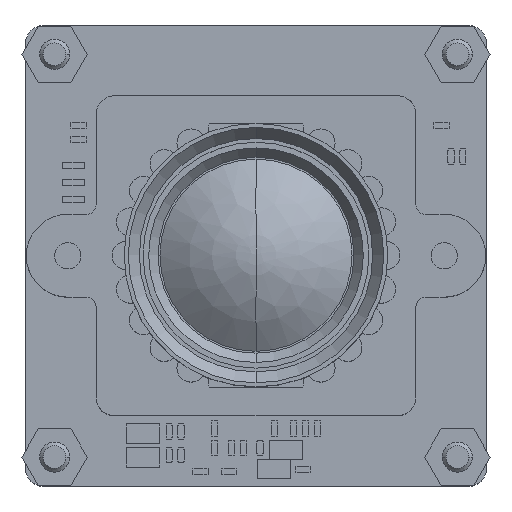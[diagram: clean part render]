
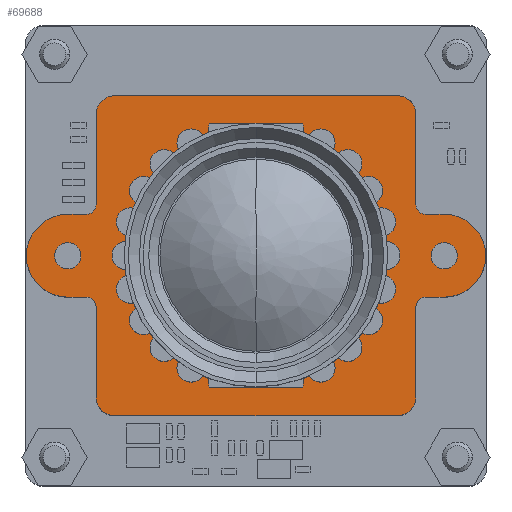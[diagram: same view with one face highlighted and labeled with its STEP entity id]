
A CAD part, top view. The second image highlights one B-rep face of the part: STEP entity #69688.
In plain terms, the highlighted planar face has unit normal (0, 0, 1) as drawn and (0, 0, -1) by its records, which use the part's own axes.
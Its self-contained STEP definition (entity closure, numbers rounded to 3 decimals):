
#68695=CARTESIAN_POINT('',(1154.724,389.466,0.));
#68696=DIRECTION('',(0.,0.,1.));
#68697=DIRECTION('',(1.,0.,0.));
#68698=AXIS2_PLACEMENT_3D('',#68695,#68696,#68697);
#68700=CARTESIAN_POINT('',(1152.024,388.466,0.));
#68701=DIRECTION('',(0.,0.,-1.));
#68702=DIRECTION('',(1.,0.,0.));
#68703=AXIS2_PLACEMENT_3D('',#68700,#68701,#68702);
#68705=CARTESIAN_POINT('',(1147.224,386.966,0.));
#68706=DIRECTION('',(0.,0.,1.));
#68707=DIRECTION('',(0.,1.,0.));
#68708=AXIS2_PLACEMENT_3D('',#68705,#68706,#68707);
#68710=CARTESIAN_POINT('',(1147.224,371.966,0.));
#68711=DIRECTION('',(0.,0.,1.));
#68712=DIRECTION('',(-1.,0.,0.));
#68713=AXIS2_PLACEMENT_3D('',#68710,#68711,#68712);
#68715=CARTESIAN_POINT('',(1152.024,370.466,0.));
#68716=DIRECTION('',(0.,0.,-1.));
#68717=DIRECTION('',(0.,1.,0.));
#68718=AXIS2_PLACEMENT_3D('',#68715,#68716,#68717);
#68720=CARTESIAN_POINT('',(1154.724,369.466,0.));
#68721=DIRECTION('',(0.,0.,1.));
#68722=DIRECTION('',(-1.,0.,0.));
#68723=AXIS2_PLACEMENT_3D('',#68720,#68721,#68722);
#68725=CARTESIAN_POINT('',(1157.424,370.466,0.));
#68726=DIRECTION('',(0.,0.,-1.));
#68727=DIRECTION('',(-1.,0.,0.));
#68728=AXIS2_PLACEMENT_3D('',#68725,#68726,#68727);
#68730=CARTESIAN_POINT('',(1162.224,371.966,0.));
#68731=DIRECTION('',(0.,0.,1.));
#68732=DIRECTION('',(0.,-1.,0.));
#68733=AXIS2_PLACEMENT_3D('',#68730,#68731,#68732);
#68735=CARTESIAN_POINT('',(1162.224,386.966,0.));
#68736=DIRECTION('',(0.,0.,1.));
#68737=DIRECTION('',(1.,0.,0.));
#68738=AXIS2_PLACEMENT_3D('',#68735,#68736,#68737);
#68740=CARTESIAN_POINT('',(1157.424,388.466,0.));
#68741=DIRECTION('',(0.,0.,-1.));
#68742=DIRECTION('',(0.,-1.,0.));
#68743=AXIS2_PLACEMENT_3D('',#68740,#68741,#68742);
#68745=CARTESIAN_POINT('',(1154.724,369.467,0.));
#68746=DIRECTION('',(0.,0.,-1.));
#68747=DIRECTION('',(1.,0.,0.));
#68748=AXIS2_PLACEMENT_3D('',#68745,#68746,#68747);
#68750=CARTESIAN_POINT('',(1154.724,369.467,0.));
#68751=DIRECTION('',(0.,0.,-1.));
#68752=DIRECTION('',(-1.,0.,0.));
#68753=AXIS2_PLACEMENT_3D('',#68750,#68751,#68752);
#68755=CARTESIAN_POINT('',(1154.724,389.466,0.));
#68756=DIRECTION('',(0.,0.,-1.));
#68757=DIRECTION('',(1.,0.,0.));
#68758=AXIS2_PLACEMENT_3D('',#68755,#68756,#68757);
#68760=CARTESIAN_POINT('',(1154.724,389.466,0.));
#68761=DIRECTION('',(0.,0.,-1.));
#68762=DIRECTION('',(-1.,0.,0.));
#68763=AXIS2_PLACEMENT_3D('',#68760,#68761,#68762);
#68765=CARTESIAN_POINT('',(1154.724,379.466,0.));
#68766=DIRECTION('',(0.,0.,-1.));
#68767=DIRECTION('',(-1.,0.,0.));
#68768=AXIS2_PLACEMENT_3D('',#68765,#68766,#68767);
#68770=CARTESIAN_POINT('',(1154.724,379.466,0.));
#68771=DIRECTION('',(0.,0.,-1.));
#68772=DIRECTION('',(1.,0.,0.));
#68773=AXIS2_PLACEMENT_3D('',#68770,#68771,#68772);
#68775=DIRECTION('',(0.,-1.,0.));
#68776=VECTOR('',#68775,1.);
#68777=CARTESIAN_POINT('',(1156.924,389.466,0.));
#68778=LINE('',#68777,#68776);
#68787=DIRECTION('',(1.,0.,0.));
#68788=VECTOR('',#68787,4.8);
#68789=CARTESIAN_POINT('',(1157.424,387.966,0.));
#68790=LINE('',#68789,#68788);
#68799=DIRECTION('',(0.,-1.,0.));
#68800=VECTOR('',#68799,15.);
#68801=CARTESIAN_POINT('',(1163.224,386.966,0.));
#68802=LINE('',#68801,#68800);
#68811=DIRECTION('',(-1.,0.,0.));
#68812=VECTOR('',#68811,4.8);
#68813=CARTESIAN_POINT('',(1162.224,370.966,0.));
#68814=LINE('',#68813,#68812);
#68823=DIRECTION('',(0.,-1.,0.));
#68824=VECTOR('',#68823,1.);
#68825=CARTESIAN_POINT('',(1156.924,370.466,0.));
#68826=LINE('',#68825,#68824);
#68835=DIRECTION('',(0.,1.,0.));
#68836=VECTOR('',#68835,1.);
#68837=CARTESIAN_POINT('',(1152.524,369.466,0.));
#68838=LINE('',#68837,#68836);
#68847=DIRECTION('',(-1.,0.,0.));
#68848=VECTOR('',#68847,4.8);
#68849=CARTESIAN_POINT('',(1152.024,370.966,0.));
#68850=LINE('',#68849,#68848);
#68859=DIRECTION('',(0.,1.,0.));
#68860=VECTOR('',#68859,15.);
#68861=CARTESIAN_POINT('',(1146.224,371.966,0.));
#68862=LINE('',#68861,#68860);
#68871=DIRECTION('',(1.,0.,0.));
#68872=VECTOR('',#68871,4.8);
#68873=CARTESIAN_POINT('',(1147.224,387.966,0.));
#68874=LINE('',#68873,#68872);
#68883=DIRECTION('',(0.,1.,0.));
#68884=VECTOR('',#68883,1.);
#68885=CARTESIAN_POINT('',(1152.524,388.466,0.));
#68886=LINE('',#68885,#68884);
#69407=CARTESIAN_POINT('',(1156.924,389.466,0.));
#69408=CARTESIAN_POINT('',(1156.924,388.466,0.));
#69409=VERTEX_POINT('',#69407);
#69410=VERTEX_POINT('',#69408);
#69411=CARTESIAN_POINT('',(1152.524,389.466,0.));
#69412=VERTEX_POINT('',#69411);
#69413=CARTESIAN_POINT('',(1152.524,388.466,0.));
#69414=VERTEX_POINT('',#69413);
#69415=CARTESIAN_POINT('',(1152.024,387.966,0.));
#69416=VERTEX_POINT('',#69415);
#69417=CARTESIAN_POINT('',(1147.224,387.966,0.));
#69418=VERTEX_POINT('',#69417);
#69419=CARTESIAN_POINT('',(1146.224,386.966,0.));
#69420=VERTEX_POINT('',#69419);
#69421=CARTESIAN_POINT('',(1146.224,371.966,0.));
#69422=VERTEX_POINT('',#69421);
#69423=CARTESIAN_POINT('',(1147.224,370.966,0.));
#69424=VERTEX_POINT('',#69423);
#69425=CARTESIAN_POINT('',(1152.024,370.966,0.));
#69426=VERTEX_POINT('',#69425);
#69427=CARTESIAN_POINT('',(1152.524,370.466,0.));
#69428=VERTEX_POINT('',#69427);
#69429=CARTESIAN_POINT('',(1152.524,369.466,0.));
#69430=VERTEX_POINT('',#69429);
#69431=CARTESIAN_POINT('',(1156.924,369.466,0.));
#69432=VERTEX_POINT('',#69431);
#69433=CARTESIAN_POINT('',(1156.924,370.466,0.));
#69434=VERTEX_POINT('',#69433);
#69435=CARTESIAN_POINT('',(1157.424,370.966,0.));
#69436=VERTEX_POINT('',#69435);
#69437=CARTESIAN_POINT('',(1162.224,370.966,0.));
#69438=VERTEX_POINT('',#69437);
#69439=CARTESIAN_POINT('',(1163.224,371.966,0.));
#69440=VERTEX_POINT('',#69439);
#69441=CARTESIAN_POINT('',(1163.224,386.966,0.));
#69442=VERTEX_POINT('',#69441);
#69443=CARTESIAN_POINT('',(1162.224,387.966,0.));
#69444=VERTEX_POINT('',#69443);
#69445=CARTESIAN_POINT('',(1157.424,387.966,0.));
#69446=VERTEX_POINT('',#69445);
#69447=CARTESIAN_POINT('',(1155.424,369.467,0.));
#69448=CARTESIAN_POINT('',(1154.024,369.467,0.));
#69449=VERTEX_POINT('',#69447);
#69450=VERTEX_POINT('',#69448);
#69451=CARTESIAN_POINT('',(1155.424,389.466,0.));
#69452=CARTESIAN_POINT('',(1154.024,389.466,0.));
#69453=VERTEX_POINT('',#69451);
#69454=VERTEX_POINT('',#69452);
#69455=CARTESIAN_POINT('',(1147.724,379.466,0.));
#69456=CARTESIAN_POINT('',(1161.724,379.466,0.));
#69457=VERTEX_POINT('',#69455);
#69458=VERTEX_POINT('',#69456);
#69623=CARTESIAN_POINT('',(0.,0.,0.));
#69624=DIRECTION('',(0.,0.,1.));
#69625=DIRECTION('',(1.,0.,0.));
#69626=AXIS2_PLACEMENT_3D('',#69623,#69624,#69625);
#69627=PLANE('',#69626);
#69629=ORIENTED_EDGE('',*,*,#69628,.F.);
#69631=ORIENTED_EDGE('',*,*,#69630,.T.);
#69633=ORIENTED_EDGE('',*,*,#69632,.F.);
#69635=ORIENTED_EDGE('',*,*,#69634,.T.);
#69637=ORIENTED_EDGE('',*,*,#69636,.F.);
#69639=ORIENTED_EDGE('',*,*,#69638,.T.);
#69641=ORIENTED_EDGE('',*,*,#69640,.F.);
#69643=ORIENTED_EDGE('',*,*,#69642,.T.);
#69645=ORIENTED_EDGE('',*,*,#69644,.F.);
#69647=ORIENTED_EDGE('',*,*,#69646,.T.);
#69649=ORIENTED_EDGE('',*,*,#69648,.F.);
#69651=ORIENTED_EDGE('',*,*,#69650,.T.);
#69653=ORIENTED_EDGE('',*,*,#69652,.F.);
#69655=ORIENTED_EDGE('',*,*,#69654,.T.);
#69657=ORIENTED_EDGE('',*,*,#69656,.F.);
#69659=ORIENTED_EDGE('',*,*,#69658,.T.);
#69661=ORIENTED_EDGE('',*,*,#69660,.F.);
#69663=ORIENTED_EDGE('',*,*,#69662,.T.);
#69665=ORIENTED_EDGE('',*,*,#69664,.F.);
#69667=ORIENTED_EDGE('',*,*,#69666,.T.);
#69668=EDGE_LOOP('',(#69629,#69631,#69633,#69635,#69637,#69639,#69641,#69643,
#69645,#69647,#69649,#69651,#69653,#69655,#69657,#69659,#69661,#69663,#69665,
#69667));
#69669=FACE_OUTER_BOUND('',#69668,.F.);
#69671=ORIENTED_EDGE('',*,*,#69670,.T.);
#69673=ORIENTED_EDGE('',*,*,#69672,.T.);
#69674=EDGE_LOOP('',(#69671,#69673));
#69675=FACE_BOUND('',#69674,.F.);
#69677=ORIENTED_EDGE('',*,*,#69676,.T.);
#69679=ORIENTED_EDGE('',*,*,#69678,.T.);
#69680=EDGE_LOOP('',(#69677,#69679));
#69681=FACE_BOUND('',#69680,.F.);
#69683=ORIENTED_EDGE('',*,*,#69682,.T.);
#69685=ORIENTED_EDGE('',*,*,#69684,.T.);
#69686=EDGE_LOOP('',(#69683,#69685));
#69687=FACE_BOUND('',#69686,.F.);
#68699=CIRCLE('',#68698,2.2);
#68704=CIRCLE('',#68703,0.5);
#68709=CIRCLE('',#68708,1.);
#68714=CIRCLE('',#68713,1.);
#68719=CIRCLE('',#68718,0.5);
#68724=CIRCLE('',#68723,2.2);
#68729=CIRCLE('',#68728,0.5);
#68734=CIRCLE('',#68733,1.);
#68739=CIRCLE('',#68738,1.);
#68744=CIRCLE('',#68743,0.5);
#68749=CIRCLE('',#68748,0.7);
#68754=CIRCLE('',#68753,0.7);
#68759=CIRCLE('',#68758,0.7);
#68764=CIRCLE('',#68763,0.7);
#68769=CIRCLE('',#68768,7.);
#68774=CIRCLE('',#68773,7.);
#69628=EDGE_CURVE('',#69409,#69410,#68778,.T.);
#69630=EDGE_CURVE('',#69409,#69412,#68699,.T.);
#69632=EDGE_CURVE('',#69414,#69412,#68886,.T.);
#69634=EDGE_CURVE('',#69414,#69416,#68704,.T.);
#69636=EDGE_CURVE('',#69418,#69416,#68874,.T.);
#69638=EDGE_CURVE('',#69418,#69420,#68709,.T.);
#69640=EDGE_CURVE('',#69422,#69420,#68862,.T.);
#69642=EDGE_CURVE('',#69422,#69424,#68714,.T.);
#69644=EDGE_CURVE('',#69426,#69424,#68850,.T.);
#69646=EDGE_CURVE('',#69426,#69428,#68719,.T.);
#69648=EDGE_CURVE('',#69430,#69428,#68838,.T.);
#69650=EDGE_CURVE('',#69430,#69432,#68724,.T.);
#69652=EDGE_CURVE('',#69434,#69432,#68826,.T.);
#69654=EDGE_CURVE('',#69434,#69436,#68729,.T.);
#69656=EDGE_CURVE('',#69438,#69436,#68814,.T.);
#69658=EDGE_CURVE('',#69438,#69440,#68734,.T.);
#69660=EDGE_CURVE('',#69442,#69440,#68802,.T.);
#69662=EDGE_CURVE('',#69442,#69444,#68739,.T.);
#69664=EDGE_CURVE('',#69446,#69444,#68790,.T.);
#69666=EDGE_CURVE('',#69446,#69410,#68744,.T.);
#69670=EDGE_CURVE('',#69449,#69450,#68749,.T.);
#69672=EDGE_CURVE('',#69450,#69449,#68754,.T.);
#69676=EDGE_CURVE('',#69453,#69454,#68759,.T.);
#69678=EDGE_CURVE('',#69454,#69453,#68764,.T.);
#69682=EDGE_CURVE('',#69457,#69458,#68769,.T.);
#69684=EDGE_CURVE('',#69458,#69457,#68774,.T.);
#69688=ADVANCED_FACE('',(#69669,#69675,#69681,#69687),#69627,.F.);
